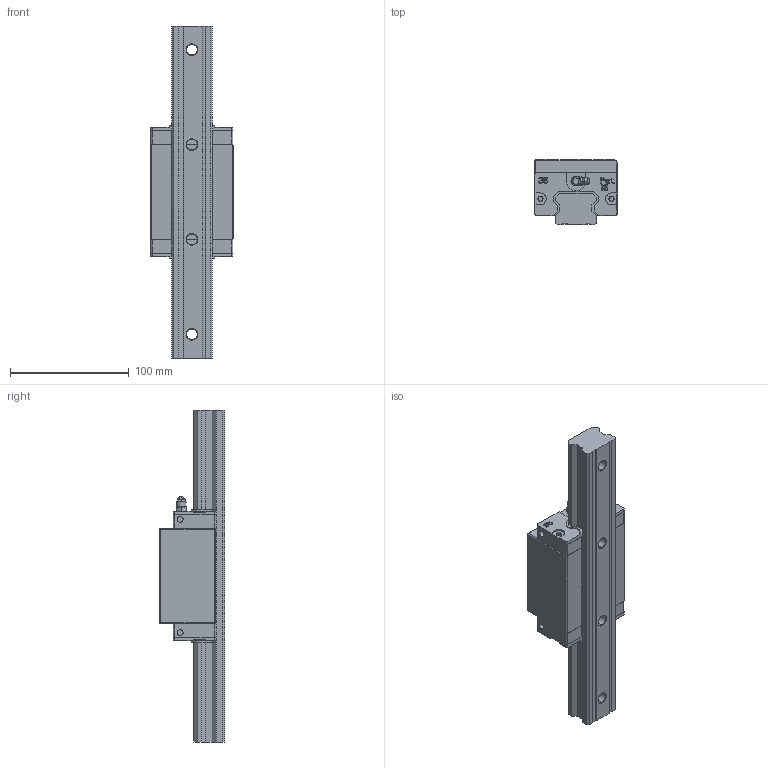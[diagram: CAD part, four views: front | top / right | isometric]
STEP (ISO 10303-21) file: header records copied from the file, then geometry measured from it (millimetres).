
FILE_DESCRIPTION (( 'STEP AP203' ), '1' );
FILE_NAME ('BGCH35BN.STEP', '2025-10-20T07:24:06', ( '' ), ( '' ), 'SwSTEP 2.0', 'SolidWorks 2020', '' );
FILE_SCHEMA (( 'CONFIG_CONTROL_DESIGN' ));
Length unit declared in the file: millimetre
Products named in the file (5): BGR35-L280; BG35端防塵; BGXH35BN; BGCH35BN; NGX02
Assembly tree (5 placements, depth 2):
  BGCH35BN
    BGR35-L280
    BGXH35BN
    BG35端防塵  x2
    NGX02
Bounding box: 69.95 x 55 x 280 mm (x, y, z)
Volume: 482784.5 mm3; surface area: 93376.6 mm2
Topology: 7 solids, 7 shells, 889 faces, 2435 edges, 1611 vertices
Faces by surface type: plane 668, cylinder 130, bspline 50, cone 37, torus 4
Entity records: 19966 total; most frequent: CARTESIAN_POINT 4591, ORIENTED_EDGE 3152, DIRECTION 2917, EDGE_CURVE 1576, VECTOR 1207, LINE 1207, VERTEX_POINT 1039, AXIS2_PLACEMENT_3D 855
